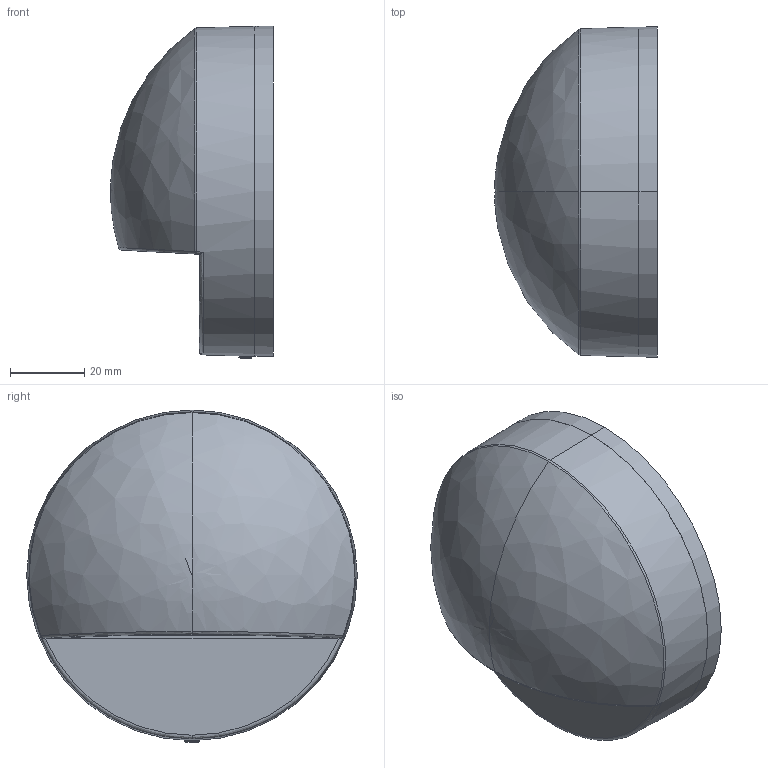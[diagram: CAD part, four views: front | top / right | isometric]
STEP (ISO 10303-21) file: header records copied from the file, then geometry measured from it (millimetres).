
FILE_DESCRIPTION(/* description */ (''),/* implementation_level */ '2;1');
FILE_NAME(/* name */ '72330_3d',/* time_stamp */ '2025-06-10T12:02:55+02:00',/* author */ (''),/* organization */ (''),/* preprocessor_version */ 'ST-DEVELOPER v19.2',/* originating_system */ 'Rhino 8.19',/* authorisation */ '');
FILE_SCHEMA (('CONFIG_CONTROL_DESIGN'));
Length unit declared in the file: millimetre
Products named in the file (1): Document
Bounding box: 44 x 89.29 x 89.66 mm (x, y, z)
Volume: 23643.9 mm3; surface area: 50492.5 mm2
Topology: 4 solids, 5 shells, 207 faces, 545 edges, 339 vertices
Faces by surface type: cylinder 74, plane 71, bspline 62
Entity records: 11894 total; most frequent: CARTESIAN_POINT 7657, ORIENTED_EDGE 1049, EDGE_CURVE 537, DIRECTION 435, B_SPLINE_CURVE_WITH_KNOTS 382, VERTEX_POINT 339, AXIS2_PLACEMENT_3D 290, EDGE_LOOP 231
